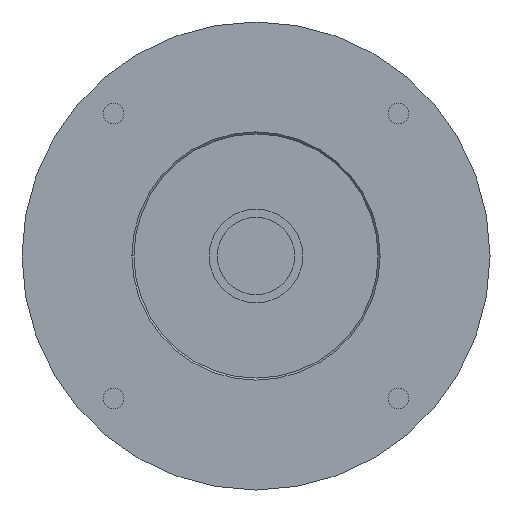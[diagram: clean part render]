
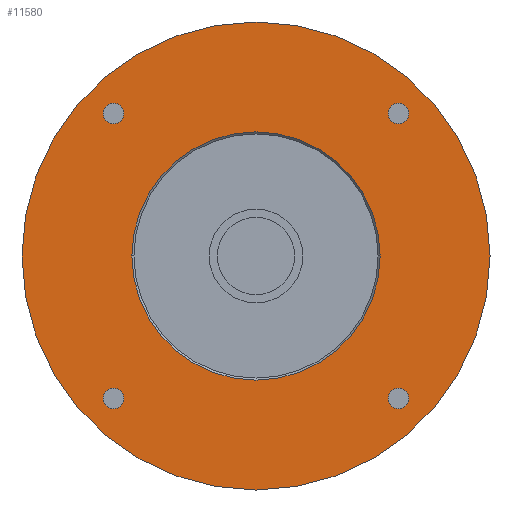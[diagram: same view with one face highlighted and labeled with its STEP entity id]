
A CAD part, left-side view. The second image highlights one B-rep face of the part: STEP entity #11580.
In plain terms, the highlighted planar face has unit normal (-1, 0, 0) as drawn and (0, 0, -1) by its records, which use the part's own axes.
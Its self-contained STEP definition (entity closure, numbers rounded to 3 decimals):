
#8590=CARTESIAN_POINT('',(0.,-57.5,-47.));
#8600=VERTEX_POINT('',#8590);
#8650=CARTESIAN_POINT('',(0.,0.,
-47.));
#8660=DIRECTION('',(0.,0.,-1.));
#8670=DIRECTION('',(0.,-1.,0.));
#8680=AXIS2_PLACEMENT_3D('',#8650,#8660,#8670);
#8690=CIRCLE('',#8680,57.5);
#8700=CARTESIAN_POINT('',(0.,57.5,-47.));
#8710=VERTEX_POINT('',#8700);
#8720=EDGE_CURVE('',#8600,#8710,#8690,.T.);
#10390=CARTESIAN_POINT('',(-35.002,-37.502,-47.));
#10400=VERTEX_POINT('',#10390);
#10430=CARTESIAN_POINT('',(-35.002,-35.002,-47.));
#10440=DIRECTION('',(0.,0.,-1.));
#10450=DIRECTION('',(1.,0.,0.));
#10460=AXIS2_PLACEMENT_3D('',#10430,#10440,#10450);
#10470=CIRCLE('',#10460,2.5);
#10480=CARTESIAN_POINT('',(-32.502,-35.002,-47.));
#10490=VERTEX_POINT('',#10480);
#10500=EDGE_CURVE('',#10490,#10400,#10470,.T.);
#10520=CARTESIAN_POINT('',(-35.002,-32.502,-47.));
#10530=VERTEX_POINT('',#10520);
#10540=EDGE_CURVE('',#10530,#10490,#10470,.T.);
#10660=CARTESIAN_POINT('',(0.,0.,
-47.));
#10670=DIRECTION('',(0.,0.,-1.));
#10680=DIRECTION('',(0.,1.,0.));
#10690=AXIS2_PLACEMENT_3D('',#10660,#10670,#10680);
#10700=PLANE('',#10690);
#10710=CARTESIAN_POINT('',(0.,0.,
-47.));
#10720=DIRECTION('',(0.,0.,-1.));
#10730=DIRECTION('',(0.,1.,0.));
#10740=AXIS2_PLACEMENT_3D('',#10710,#10720,#10730);
#10750=CIRCLE('',#10740,30.5);
#10760=CARTESIAN_POINT('',(0.,30.5,-47.));
#10770=VERTEX_POINT('',#10760);
#10780=CARTESIAN_POINT('',(30.5,0.,-47.));
#10790=VERTEX_POINT('',#10780);
#10800=EDGE_CURVE('',#10770,#10790,#10750,.T.);
#10810=ORIENTED_EDGE('',*,*,#10800,.F.);
#10820=CARTESIAN_POINT('',(-30.5,0.,-47.));
#10830=VERTEX_POINT('',#10820);
#10840=EDGE_CURVE('',#10790,#10830,#10750,.T.);
#10850=ORIENTED_EDGE('',*,*,#10840,.F.);
#10860=EDGE_CURVE('',#10830,#10770,#10750,.T.);
#10870=ORIENTED_EDGE('',*,*,#10860,.F.);
#10880=EDGE_LOOP('',(#10870,#10850,#10810));
#10890=FACE_BOUND('',#10880,.T.);
#10900=ORIENTED_EDGE('',*,*,#10500,.F.);
#10910=EDGE_CURVE('',#10400,#10530,#10470,.T.);
#10920=ORIENTED_EDGE('',*,*,#10910,.F.);
#10930=ORIENTED_EDGE('',*,*,#10540,.F.);
#10940=EDGE_LOOP('',(#10930,#10920,#10900));
#10950=FACE_BOUND('',#10940,.T.);
#10960=CARTESIAN_POINT('',(-35.002,35.002,-47.));
#10970=DIRECTION('',(0.,0.,-1.));
#10980=DIRECTION('',(1.,0.,0.));
#10990=AXIS2_PLACEMENT_3D('',#10960,#10970,#10980);
#11000=CIRCLE('',#10990,2.5);
#11010=CARTESIAN_POINT('',(-32.502,35.002,-47.));
#11020=VERTEX_POINT('',#11010);
#11030=CARTESIAN_POINT('',(-35.002,32.502,-47.));
#11040=VERTEX_POINT('',#11030);
#11050=EDGE_CURVE('',#11020,#11040,#11000,.T.);
#11060=ORIENTED_EDGE('',*,*,#11050,.F.);
#11070=CARTESIAN_POINT('',(-35.002,37.502,-47.));
#11080=VERTEX_POINT('',#11070);
#11090=EDGE_CURVE('',#11040,#11080,#11000,.T.);
#11100=ORIENTED_EDGE('',*,*,#11090,.F.);
#11110=EDGE_CURVE('',#11080,#11020,#11000,.T.);
#11120=ORIENTED_EDGE('',*,*,#11110,.F.);
#11130=EDGE_LOOP('',(#11120,#11100,#11060));
#11140=FACE_BOUND('',#11130,.T.);
#11150=CARTESIAN_POINT('',(35.002,35.002,-47.));
#11160=DIRECTION('',(0.,0.,-1.));
#11170=DIRECTION('',(1.,0.,0.));
#11180=AXIS2_PLACEMENT_3D('',#11150,#11160,#11170);
#11190=CIRCLE('',#11180,2.5);
#11200=CARTESIAN_POINT('',(37.502,35.002,-47.));
#11210=VERTEX_POINT('',#11200);
#11220=CARTESIAN_POINT('',(35.002,32.502,-47.));
#11230=VERTEX_POINT('',#11220);
#11240=EDGE_CURVE('',#11210,#11230,#11190,.T.);
#11250=ORIENTED_EDGE('',*,*,#11240,.F.);
#11260=CARTESIAN_POINT('',(35.002,37.502,-47.));
#11270=VERTEX_POINT('',#11260);
#11280=EDGE_CURVE('',#11230,#11270,#11190,.T.);
#11290=ORIENTED_EDGE('',*,*,#11280,.F.);
#11300=EDGE_CURVE('',#11270,#11210,#11190,.T.);
#11310=ORIENTED_EDGE('',*,*,#11300,.F.);
#11320=EDGE_LOOP('',(#11310,#11290,#11250));
#11330=FACE_BOUND('',#11320,.T.);
#11340=CARTESIAN_POINT('',(35.002,-35.002,-47.));
#11350=DIRECTION('',(0.,0.,-1.));
#11360=DIRECTION('',(1.,0.,0.));
#11370=AXIS2_PLACEMENT_3D('',#11340,#11350,#11360);
#11380=CIRCLE('',#11370,2.5);
#11390=CARTESIAN_POINT('',(37.502,-35.002,-47.));
#11400=VERTEX_POINT('',#11390);
#11410=CARTESIAN_POINT('',(35.002,-37.502,-47.));
#11420=VERTEX_POINT('',#11410);
#11430=EDGE_CURVE('',#11400,#11420,#11380,.T.);
#11440=ORIENTED_EDGE('',*,*,#11430,.F.);
#11450=CARTESIAN_POINT('',(35.002,-32.502,-47.));
#11460=VERTEX_POINT('',#11450);
#11470=EDGE_CURVE('',#11420,#11460,#11380,.T.);
#11480=ORIENTED_EDGE('',*,*,#11470,.F.);
#11490=EDGE_CURVE('',#11460,#11400,#11380,.T.);
#11500=ORIENTED_EDGE('',*,*,#11490,.F.);
#11510=EDGE_LOOP('',(#11500,#11480,#11440));
#11520=FACE_BOUND('',#11510,.T.);
#11530=ORIENTED_EDGE('',*,*,#8720,.T.);
#11540=EDGE_CURVE('',#8710,#8600,#8690,.T.);
#11550=ORIENTED_EDGE('',*,*,#11540,.T.);
#11560=EDGE_LOOP('',(#11550,#11530));
#11570=FACE_OUTER_BOUND('',#11560,.T.);
#11580=ADVANCED_FACE('',(#10890,#10950,#11140,#11330,#11520,#11570),
#10700,.T.);
